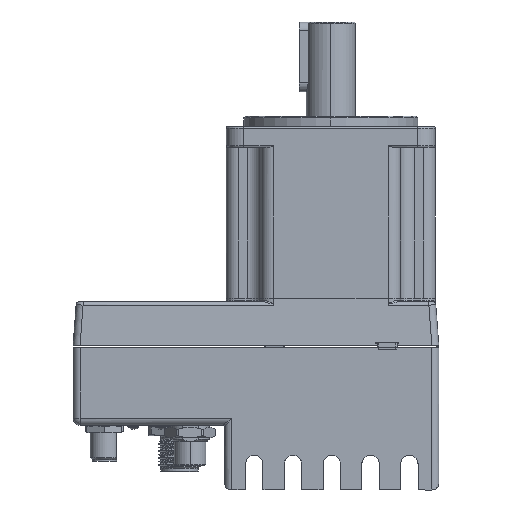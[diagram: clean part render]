
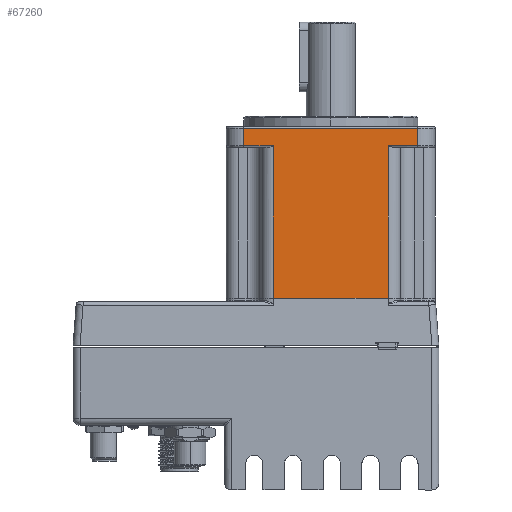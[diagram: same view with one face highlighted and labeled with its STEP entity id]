
A CAD part, left-side view. The second image highlights one B-rep face of the part: STEP entity #67260.
In plain terms, the highlighted planar face has unit normal (-1, 0, 0).
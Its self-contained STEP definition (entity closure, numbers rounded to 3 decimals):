
#1441 = LINE ( 'NONE', #2156, #8159 ) ;
#1841 = EDGE_CURVE ( 'NONE', #39165, #52509, #2085, .T. ) ;
#2085 = LINE ( 'NONE', #54501, #57924 ) ;
#2156 = CARTESIAN_POINT ( 'NONE',  ( -30., -29.978, 8.81 ) ) ;
#3090 = DIRECTION ( 'NONE',  ( 0., 0., 1. ) ) ;
#4114 = LINE ( 'NONE', #67526, #13661 ) ;
#6062 = ORIENTED_EDGE ( 'NONE', *, *, #54780, .T. ) ;
#8159 = VECTOR ( 'NONE', #25368, 1000. ) ;
#9820 = DIRECTION ( 'NONE',  ( 0., 0., 1. ) ) ;
#10222 = VERTEX_POINT ( 'NONE', #15353 ) ;
#11888 = CARTESIAN_POINT ( 'NONE',  ( -30., 25.022, 8.81 ) ) ;
#12599 = ORIENTED_EDGE ( 'NONE', *, *, #56675, .T. ) ;
#13661 = VECTOR ( 'NONE', #9820, 1000. ) ;
#13685 = CARTESIAN_POINT ( 'NONE',  ( -30., 25.022, 13.81 ) ) ;
#14024 = VECTOR ( 'NONE', #71249, 1000. ) ;
#15353 = CARTESIAN_POINT ( 'NONE',  ( -30., 16.522, -34.99 ) ) ;
#19027 = DIRECTION ( 'NONE',  ( 0., 0., -1. ) ) ;
#21240 = ORIENTED_EDGE ( 'NONE', *, *, #74872, .T. ) ;
#21457 = VERTEX_POINT ( 'NONE', #45596 ) ;
#25325 = LINE ( 'NONE', #60199, #14024 ) ;
#25368 = DIRECTION ( 'NONE',  ( 0., -1., 0. ) ) ;
#27773 = DIRECTION ( 'NONE',  ( 0., -1., 0. ) ) ;
#29091 = EDGE_CURVE ( 'NONE', #10222, #39014, #58715, .T. ) ;
#29121 = VECTOR ( 'NONE', #60344, 1000. ) ;
#29938 = EDGE_CURVE ( 'NONE', #39014, #21457, #25325, .T. ) ;
#31681 = ORIENTED_EDGE ( 'NONE', *, *, #1841, .T. ) ;
#32005 = PLANE ( 'NONE',  #53526 ) ;
#34947 = CARTESIAN_POINT ( 'NONE',  ( -30., -29.978, 8.81 ) ) ;
#35229 = CARTESIAN_POINT ( 'NONE',  ( -30., 16.522, -34.99 ) ) ;
#36391 = VERTEX_POINT ( 'NONE', #36394 ) ;
#36394 = CARTESIAN_POINT ( 'NONE',  ( -30., -24.978, 8.81 ) ) ;
#36895 = LINE ( 'NONE', #70663, #38280 ) ;
#38280 = VECTOR ( 'NONE', #19027, 1000. ) ;
#39014 = VERTEX_POINT ( 'NONE', #59759 ) ;
#39165 = VERTEX_POINT ( 'NONE', #62395 ) ;
#42828 = EDGE_CURVE ( 'NONE', #52509, #65989, #63769, .T. ) ;
#43791 = FACE_OUTER_BOUND ( 'NONE', #57237, .T. ) ;
#44485 = VECTOR ( 'NONE', #27773, 1000. ) ;
#45404 = VECTOR ( 'NONE', #52657, 1000. ) ;
#45596 = CARTESIAN_POINT ( 'NONE',  ( -30., -16.478, 8.81 ) ) ;
#46784 = VERTEX_POINT ( 'NONE', #63867 ) ;
#48074 = DIRECTION ( 'NONE',  ( 0., 0., -1. ) ) ;
#51588 = CARTESIAN_POINT ( 'NONE',  ( -30., 16.522, 8.81 ) ) ;
#52106 = EDGE_CURVE ( 'NONE', #36391, #46784, #4114, .T. ) ;
#52509 = VERTEX_POINT ( 'NONE', #11888 ) ;
#52657 = DIRECTION ( 'NONE',  ( 0., -1., 0. ) ) ;
#53526 = AXIS2_PLACEMENT_3D ( 'NONE', #60433, #54756, #3090 ) ;
#54501 = CARTESIAN_POINT ( 'NONE',  ( -30., 25.022, 7.31 ) ) ;
#54756 = DIRECTION ( 'NONE',  ( 1., 0., 0. ) ) ;
#54780 = EDGE_CURVE ( 'NONE', #65989, #10222, #36895, .T. ) ;
#56675 = EDGE_CURVE ( 'NONE', #21457, #36391, #1441, .T. ) ;
#57237 = EDGE_LOOP ( 'NONE', ( #63748, #12599, #73454, #21240, #31681, #65987, #6062, #72740 ) ) ;
#57924 = VECTOR ( 'NONE', #48074, 1000. ) ;
#58715 = LINE ( 'NONE', #35229, #45404 ) ;
#59759 = CARTESIAN_POINT ( 'NONE',  ( -30., -16.478, -34.99 ) ) ;
#60199 = CARTESIAN_POINT ( 'NONE',  ( -30., -16.478, 7.31 ) ) ;
#60344 = DIRECTION ( 'NONE',  ( 0., 1., 0. ) ) ;
#60433 = CARTESIAN_POINT ( 'NONE',  ( -30., 30.022, 7.31 ) ) ;
#62395 = CARTESIAN_POINT ( 'NONE',  ( -30., 25.022, 13.81 ) ) ;
#63748 = ORIENTED_EDGE ( 'NONE', *, *, #29938, .T. ) ;
#63769 = LINE ( 'NONE', #34947, #44485 ) ;
#63867 = CARTESIAN_POINT ( 'NONE',  ( -30., -24.978, 13.81 ) ) ;
#65987 = ORIENTED_EDGE ( 'NONE', *, *, #42828, .T. ) ;
#65989 = VERTEX_POINT ( 'NONE', #51588 ) ;
#67260 = ADVANCED_FACE ( 'NONE', ( #43791 ), #32005, .F. ) ;
#67526 = CARTESIAN_POINT ( 'NONE',  ( -30., -24.978, 7.31 ) ) ;
#70663 = CARTESIAN_POINT ( 'NONE',  ( -30., 16.522, 7.31 ) ) ;
#71012 = LINE ( 'NONE', #13685, #29121 ) ;
#71249 = DIRECTION ( 'NONE',  ( 0., 0., 1. ) ) ;
#72740 = ORIENTED_EDGE ( 'NONE', *, *, #29091, .T. ) ;
#73454 = ORIENTED_EDGE ( 'NONE', *, *, #52106, .T. ) ;
#74872 = EDGE_CURVE ( 'NONE', #46784, #39165, #71012, .T. ) ;
